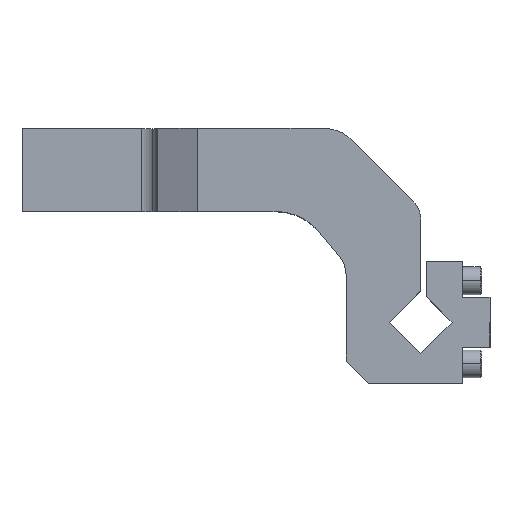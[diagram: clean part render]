
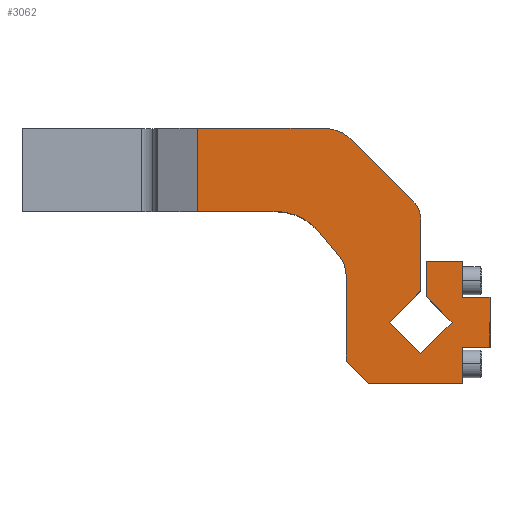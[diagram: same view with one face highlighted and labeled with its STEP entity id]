
A CAD part, top view. The second image highlights one B-rep face of the part: STEP entity #3062.
In plain terms, the highlighted planar face has unit normal (0, 0, 1).
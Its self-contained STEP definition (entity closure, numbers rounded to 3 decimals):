
#613=CARTESIAN_POINT('',(14.087,29.873,80.0));
#614=VERTEX_POINT('',#613);
#630=CARTESIAN_POINT('',(11.919,33.117,80.));
#631=VERTEX_POINT('',#630);
#638=CARTESIAN_POINT('',(4.848,26.046,80.0));
#639=DIRECTION('',(0.0,0.0,-1.0));
#640=DIRECTION('',(1.0,0.0,0.0));
#641=AXIS2_PLACEMENT_3D('',#638,#639,#640);
#642=CIRCLE('',#641,10.);
#643=EDGE_CURVE('',#631,#614,#642,.T.);
#1665=CARTESIAN_POINT('',(16.848,11.188,80.));
#1666=VERTEX_POINT('',#1665);
#1667=CARTESIAN_POINT('',(16.848,-1.519,80.));
#1668=VERTEX_POINT('',#1667);
#1669=CARTESIAN_POINT('',(16.848,11.188,80.));
#1670=DIRECTION('',(0.0,-1.0,0.0));
#1671=VECTOR('',#1670,12.707);
#1672=LINE('',#1669,#1671);
#1673=EDGE_CURVE('',#1666,#1668,#1672,.T.);
#1724=CARTESIAN_POINT('',(26.141,-10.812,80.));
#1725=VERTEX_POINT('',#1724);
#1732=CARTESIAN_POINT('',(26.141,-10.812,80.));
#1733=DIRECTION('',(-0.707,0.707,0.0));
#1734=VECTOR('',#1733,13.142);
#1735=LINE('',#1732,#1734);
#1736=EDGE_CURVE('',#1725,#1668,#1735,.T.);
#1781=CARTESIAN_POINT('',(14.848,-22.125,80.));
#1782=VERTEX_POINT('',#1781);
#1789=CARTESIAN_POINT('',(14.848,-22.104,80.));
#1790=VERTEX_POINT('',#1789);
#1791=CARTESIAN_POINT('',(14.848,-22.125,80.));
#1792=DIRECTION('',(0.,1.0,0.));
#1793=VECTOR('',#1792,0.021);
#1794=LINE('',#1791,#1793);
#1795=EDGE_CURVE('',#1782,#1790,#1794,.T.);
#1819=CARTESIAN_POINT('',(14.848,-22.104,80.));
#1820=DIRECTION('',(0.707,0.707,0.0));
#1821=VECTOR('',#1820,15.97);
#1822=LINE('',#1819,#1821);
#1823=EDGE_CURVE('',#1790,#1725,#1822,.T.);
#1842=CARTESIAN_POINT('',(29.848,11.188,80.));
#1843=VERTEX_POINT('',#1842);
#1844=CARTESIAN_POINT('',(16.848,11.188,80.));
#1845=DIRECTION('',(1.0,0.0,0.0));
#1846=VECTOR('',#1845,13.);
#1847=LINE('',#1844,#1846);
#1848=EDGE_CURVE('',#1666,#1843,#1847,.T.);
#1872=CARTESIAN_POINT('',(29.848,-1.812,80.));
#1873=VERTEX_POINT('',#1872);
#1874=CARTESIAN_POINT('',(29.848,11.188,80.));
#1875=DIRECTION('',(0.0,-1.0,0.0));
#1876=VECTOR('',#1875,13.0);
#1877=LINE('',#1874,#1876);
#1878=EDGE_CURVE('',#1843,#1873,#1877,.T.);
#1907=CARTESIAN_POINT('',(39.848,-1.812,80.));
#1908=VERTEX_POINT('',#1907);
#1909=CARTESIAN_POINT('',(29.848,-1.812,80.));
#1910=DIRECTION('',(1.0,0.0,0.0));
#1911=VECTOR('',#1910,10.);
#1912=LINE('',#1909,#1911);
#1913=EDGE_CURVE('',#1873,#1908,#1912,.T.);
#1938=CARTESIAN_POINT('',(39.848,-19.812,80.));
#1939=VERTEX_POINT('',#1938);
#1940=CARTESIAN_POINT('',(39.848,-1.812,80.));
#1941=DIRECTION('',(0.0,-1.0,0.0));
#1942=VECTOR('',#1941,18.0);
#1943=LINE('',#1940,#1942);
#1944=EDGE_CURVE('',#1908,#1939,#1943,.T.);
#1969=CARTESIAN_POINT('',(29.848,-19.812,80.));
#1970=VERTEX_POINT('',#1969);
#1971=CARTESIAN_POINT('',(39.848,-19.812,80.));
#1972=DIRECTION('',(-1.0,0.0,0.0));
#1973=VECTOR('',#1972,10.0);
#1974=LINE('',#1971,#1973);
#1975=EDGE_CURVE('',#1939,#1970,#1974,.T.);
#2000=CARTESIAN_POINT('',(29.848,-32.812,80.));
#2001=VERTEX_POINT('',#2000);
#2002=CARTESIAN_POINT('',(29.848,-19.812,80.));
#2003=DIRECTION('',(0.0,-1.0,0.0));
#2004=VECTOR('',#2003,13.);
#2005=LINE('',#2002,#2004);
#2006=EDGE_CURVE('',#1970,#2001,#2005,.T.);
#2924=CARTESIAN_POINT('',(-19.786,20.344,80.));
#2925=DIRECTION('',(0.0,0.0,1.0));
#2926=DIRECTION('',(1.0,0.0,0.0));
#2927=AXIS2_PLACEMENT_3D('',#2924,#2925,#2926);
#2928=PLANE('',#2927);
#2929=CARTESIAN_POINT('',(-65.863,59.188,80.));
#2930=VERTEX_POINT('',#2929);
#2931=CARTESIAN_POINT('',(-65.863,29.188,80.));
#2932=VERTEX_POINT('',#2931);
#2933=CARTESIAN_POINT('',(-65.863,59.188,80.));
#2934=DIRECTION('',(0.0,-1.0,0.0));
#2935=VECTOR('',#2934,30.);
#2936=LINE('',#2933,#2935);
#2937=EDGE_CURVE('',#2930,#2932,#2936,.T.);
#2938=ORIENTED_EDGE('',*,*,#2937,.T.);
#2939=CARTESIAN_POINT('',(-37.421,29.188,80.));
#2940=VERTEX_POINT('',#2939);
#2941=CARTESIAN_POINT('',(-37.421,29.188,80.));
#2942=DIRECTION('',(-1.0,0.0,0.0));
#2943=VECTOR('',#2942,28.442);
#2944=LINE('',#2941,#2943);
#2945=EDGE_CURVE('',#2940,#2932,#2944,.T.);
#2946=ORIENTED_EDGE('',*,*,#2945,.F.);
#2947=CARTESIAN_POINT('',(-22.1,22.044,80.));
#2948=VERTEX_POINT('',#2947);
#2949=CARTESIAN_POINT('',(-37.421,9.188,80.0));
#2950=DIRECTION('',(0.0,0.0,1.0));
#2951=DIRECTION('',(-0.766,-0.643,0.0));
#2952=AXIS2_PLACEMENT_3D('',#2949,#2950,#2951);
#2953=CIRCLE('',#2952,20.);
#2954=EDGE_CURVE('',#2948,#2940,#2953,.T.);
#2955=ORIENTED_EDGE('',*,*,#2954,.F.);
#2956=CARTESIAN_POINT('',(-14.492,12.976,80.));
#2957=VERTEX_POINT('',#2956);
#2958=CARTESIAN_POINT('',(-14.492,12.976,80.));
#2959=DIRECTION('',(-0.643,0.766,0.0));
#2960=VECTOR('',#2959,11.837);
#2961=LINE('',#2958,#2960);
#2962=EDGE_CURVE('',#2957,#2948,#2961,.T.);
#2963=ORIENTED_EDGE('',*,*,#2962,.F.);
#2964=CARTESIAN_POINT('',(-12.152,6.549,80.));
#2965=VERTEX_POINT('',#2964);
#2966=CARTESIAN_POINT('',(-22.152,6.549,80.0));
#2967=DIRECTION('',(0.0,0.0,1.0));
#2968=DIRECTION('',(-1.0,0.0,0.0));
#2969=AXIS2_PLACEMENT_3D('',#2966,#2967,#2968);
#2970=CIRCLE('',#2969,10.);
#2971=EDGE_CURVE('',#2965,#2957,#2970,.T.);
#2972=ORIENTED_EDGE('',*,*,#2971,.F.);
#2973=CARTESIAN_POINT('',(-12.152,-24.812,80.));
#2974=VERTEX_POINT('',#2973);
#2975=CARTESIAN_POINT('',(-12.152,-24.812,80.));
#2976=DIRECTION('',(0.0,1.0,0.0));
#2977=VECTOR('',#2976,31.36);
#2978=LINE('',#2975,#2977);
#2979=EDGE_CURVE('',#2974,#2965,#2978,.T.);
#2980=ORIENTED_EDGE('',*,*,#2979,.F.);
#2981=CARTESIAN_POINT('',(-4.152,-32.812,80.));
#2982=VERTEX_POINT('',#2981);
#2983=CARTESIAN_POINT('',(-4.152,-32.812,80.));
#2984=DIRECTION('',(-0.707,0.707,0.0));
#2985=VECTOR('',#2984,11.314);
#2986=LINE('',#2983,#2985);
#2987=EDGE_CURVE('',#2982,#2974,#2986,.T.);
#2988=ORIENTED_EDGE('',*,*,#2987,.F.);
#2989=CARTESIAN_POINT('',(29.848,-32.812,80.));
#2990=DIRECTION('',(-1.0,0.0,0.0));
#2991=VECTOR('',#2990,34.);
#2992=LINE('',#2989,#2991);
#2993=EDGE_CURVE('',#2001,#2982,#2992,.T.);
#2994=ORIENTED_EDGE('',*,*,#2993,.F.);
#2995=ORIENTED_EDGE('',*,*,#2006,.F.);
#2996=ORIENTED_EDGE('',*,*,#1975,.F.);
#2997=ORIENTED_EDGE('',*,*,#1944,.F.);
#2998=ORIENTED_EDGE('',*,*,#1913,.F.);
#2999=ORIENTED_EDGE('',*,*,#1878,.F.);
#3000=ORIENTED_EDGE('',*,*,#1848,.F.);
#3001=ORIENTED_EDGE('',*,*,#1673,.T.);
#3002=ORIENTED_EDGE('',*,*,#1736,.F.);
#3003=ORIENTED_EDGE('',*,*,#1823,.F.);
#3004=ORIENTED_EDGE('',*,*,#1795,.F.);
#3005=CARTESIAN_POINT('',(3.534,-10.812,80.));
#3006=VERTEX_POINT('',#3005);
#3007=CARTESIAN_POINT('',(3.534,-10.812,80.));
#3008=DIRECTION('',(0.707,-0.707,0.0));
#3009=VECTOR('',#3008,16.);
#3010=LINE('',#3007,#3009);
#3011=EDGE_CURVE('',#3006,#1782,#3010,.T.);
#3012=ORIENTED_EDGE('',*,*,#3011,.F.);
#3013=CARTESIAN_POINT('',(14.848,0.502,80.));
#3014=VERTEX_POINT('',#3013);
#3015=CARTESIAN_POINT('',(14.848,0.502,80.));
#3016=DIRECTION('',(-0.707,-0.707,0.0));
#3017=VECTOR('',#3016,16.);
#3018=LINE('',#3015,#3017);
#3019=EDGE_CURVE('',#3014,#3006,#3018,.T.);
#3020=ORIENTED_EDGE('',*,*,#3019,.F.);
#3021=CARTESIAN_POINT('',(14.848,26.046,80.));
#3022=VERTEX_POINT('',#3021);
#3023=CARTESIAN_POINT('',(14.848,26.046,80.));
#3024=DIRECTION('',(0.0,-1.0,0.0));
#3025=VECTOR('',#3024,25.544);
#3026=LINE('',#3023,#3025);
#3027=EDGE_CURVE('',#3022,#3014,#3026,.T.);
#3028=ORIENTED_EDGE('',*,*,#3027,.F.);
#3029=CARTESIAN_POINT('',(4.848,26.046,80.0));
#3030=DIRECTION('',(0.0,0.0,-1.0));
#3031=DIRECTION('',(1.0,0.0,0.0));
#3032=AXIS2_PLACEMENT_3D('',#3029,#3030,#3031);
#3033=CIRCLE('',#3032,10.);
#3034=EDGE_CURVE('',#614,#3022,#3033,.T.);
#3035=ORIENTED_EDGE('',*,*,#3034,.F.);
#3036=ORIENTED_EDGE('',*,*,#643,.F.);
#3037=CARTESIAN_POINT('',(-9.759,54.795,80.));
#3038=VERTEX_POINT('',#3037);
#3039=CARTESIAN_POINT('',(-9.759,54.795,80.));
#3040=DIRECTION('',(0.707,-0.707,0.0));
#3041=VECTOR('',#3040,30.657);
#3042=LINE('',#3039,#3041);
#3043=EDGE_CURVE('',#3038,#631,#3042,.T.);
#3044=ORIENTED_EDGE('',*,*,#3043,.F.);
#3045=CARTESIAN_POINT('',(-20.365,59.188,80.));
#3046=VERTEX_POINT('',#3045);
#3047=CARTESIAN_POINT('',(-20.365,44.188,80.0));
#3048=DIRECTION('',(0.0,0.0,-1.0));
#3049=DIRECTION('',(0.707,0.707,0.0));
#3050=AXIS2_PLACEMENT_3D('',#3047,#3048,#3049);
#3051=CIRCLE('',#3050,15.);
#3052=EDGE_CURVE('',#3046,#3038,#3051,.T.);
#3053=ORIENTED_EDGE('',*,*,#3052,.F.);
#3054=CARTESIAN_POINT('',(-65.863,59.188,80.));
#3055=DIRECTION('',(1.0,0.0,0.0));
#3056=VECTOR('',#3055,45.498);
#3057=LINE('',#3054,#3056);
#3058=EDGE_CURVE('',#2930,#3046,#3057,.T.);
#3059=ORIENTED_EDGE('',*,*,#3058,.F.);
#3060=EDGE_LOOP('',(#2938,#2946,#2955,#2963,#2972,#2980,#2988,#2994,#2995,#2996,#2997,#2998,#2999,#3000,#3001,#3002,#3003,#3004,#3012,#3020,#3028,#3035,#3036,#3044,#3053,#3059));
#3061=FACE_OUTER_BOUND('',#3060,.T.);
#3062=ADVANCED_FACE('',(#3061),#2928,.T.);
